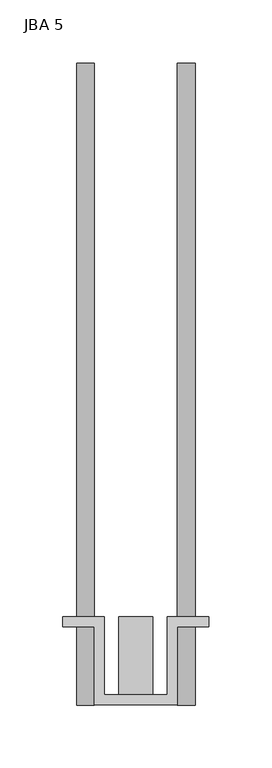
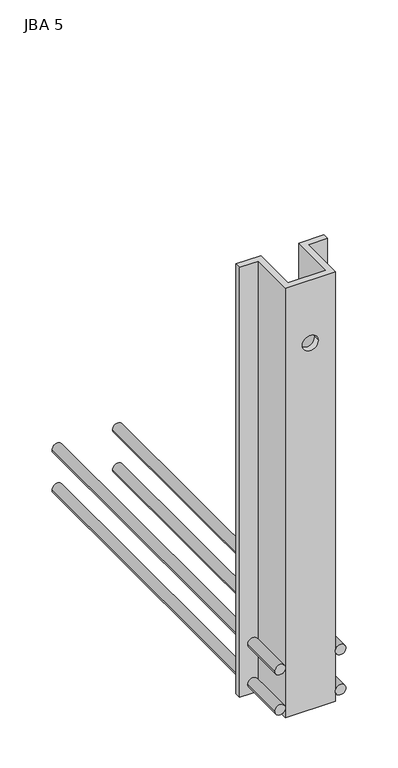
"""IFC4 building model written with IfcOpenShell, lengths in millimetres: fastener geometry, JBA JORDAHL® support corbels_1 : JBA 5."""

from ifc_helpers import new_model, si_unit, point, frame, frame_2d, origin, place, context, project, spatial, polyline, circle_curve, trimmed, segment, composite_curve, outline, extrude, source, transform, mapped, element, save
from ifc_brep_helpers import plane_surface, revolved_surface, advanced_brep


def jba_5_88301e45(model_context):
    return source(origin(), model_context, "Body", "SolidModel", [
        extrude(outline(composite_curve([segment(trimmed(circle_curve(frame_2d((-32.0, -40.0)), 7.0), [point((-32.0, -47.0))], [point((-32.0, -33.0))], False, "CARTESIAN"), True, "CONTINUOUS"), segment(trimmed(circle_curve(frame_2d((-32.0, -40.0)), 7.0), [point((-32.0, -33.0))], [point((-32.0, -47.0))], False, "CARTESIAN"), True, "CONTINUOUS")], self_intersect=False)), frame((0.0, 0.0, 0.0), z_axis=(0.0, 1.0, 0.0), x_axis=(0.0, 0.0, 1.0)), (0.0, 0.0, 1.0), 510.0),
        extrude(outline(composite_curve([segment(trimmed(circle_curve(frame_2d((-32.0, 40.0)), 7.0), [point((-32.0, 33.0))], [point((-32.0, 47.0))], False, "CARTESIAN"), True, "CONTINUOUS"), segment(trimmed(circle_curve(frame_2d((-32.0, 40.0)), 7.0), [point((-32.0, 47.0))], [point((-32.0, 33.0))], False, "CARTESIAN"), True, "CONTINUOUS")], self_intersect=False)), frame((0.0, 0.0, 0.0), z_axis=(0.0, 1.0, 0.0), x_axis=(0.0, 0.0, 1.0)), (0.0, 0.0, 1.0), 510.0),
        extrude(outline(composite_curve([segment(trimmed(circle_curve(frame_2d((-88.0, -40.0)), 7.0), [point((-88.0, -47.0))], [point((-88.0, -33.0))], False, "CARTESIAN"), True, "CONTINUOUS"), segment(trimmed(circle_curve(frame_2d((-88.0, -40.0)), 7.0), [point((-88.0, -33.0))], [point((-88.0, -47.0))], False, "CARTESIAN"), True, "CONTINUOUS")], self_intersect=False)), frame((0.0, 0.0, 0.0), z_axis=(0.0, 1.0, 0.0), x_axis=(0.0, 0.0, 1.0)), (0.0, 0.0, 1.0), 510.0),
        extrude(outline(composite_curve([segment(trimmed(circle_curve(frame_2d((-88.0, 40.0)), 7.0), [point((-88.0, 33.0))], [point((-88.0, 47.0))], False, "CARTESIAN"), True, "CONTINUOUS"), segment(trimmed(circle_curve(frame_2d((-88.0, 40.0)), 7.0), [point((-88.0, 47.0))], [point((-88.0, 33.0))], False, "CARTESIAN"), True, "CONTINUOUS")], self_intersect=False)), frame((0.0, 0.0, 0.0), z_axis=(0.0, 1.0, 0.0), x_axis=(0.0, 0.0, 1.0)), (0.0, 0.0, 1.0), 510.0),
        advanced_brep(
        [(-58.0, 62.0, 498.0), (-33.0, 62.0, 498.0), (-33.0, 0.0, 498.0), (33.0, 0.0, 498.0), (33.0, 62.0, 498.0), (58.0, 62.0, 498.0), (58.0, 70.0, 498.0), (25.0, 70.0, 498.0), (25.0, 8.0, 498.0), (-25.0, 8.0, 498.0), (-25.0, 70.0, 498.0), (-58.0, 70.0, 498.0), (-58.0, 62.0, -102.0), (-58.0, 70.0, -102.0), (-25.0, 70.0, -102.0), (-25.0, 8.0, -102.0), (25.0, 8.0, -102.0), (25.0, 70.0, -102.0), (58.0, 70.0, -102.0), (58.0, 62.0, -102.0), (33.0, 62.0, -102.0), (33.0, 0.0, -102.0), (-33.0, 0.0, -102.0), (-33.0, 62.0, -102.0), (10.5, 0.0, 410.0), (-10.5, 0.0, 410.0), (-10.5, 8.0, 410.0), (10.5, 8.0, 410.0)],
        [
            (0, 1),
            (1, 2),
            (2, 3),
            (3, 4),
            (4, 5),
            (5, 6),
            (6, 7),
            (7, 8),
            (8, 9),
            (9, 10),
            (10, 11),
            (11, 0),
            (12, 13),
            (13, 14),
            (14, 15),
            (15, 16),
            (16, 17),
            (17, 18),
            (18, 19),
            (19, 20),
            (20, 21),
            (21, 22),
            (22, 23),
            (23, 12),
            (0, 12),
            (23, 1),
            (22, 2),
            (21, 3),
            (24, 25, circle_curve(frame((0.0, 0.0, 410.0), z_axis=(0.0, 1.0, 0.0), x_axis=(1.0, 0.0, 0.0)), 10.5)),
            (25, 24, circle_curve(frame((0.0, 0.0, 410.0), z_axis=(0.0, 1.0, 0.0), x_axis=(1.0, 0.0, 0.0)), 10.5)),
            (20, 4),
            (19, 5),
            (18, 6),
            (17, 7),
            (16, 8),
            (15, 9),
            (26, 27, circle_curve(frame((0.0, 8.0, 410.0), z_axis=(0.0, -1.0, 0.0), x_axis=(1.0, 0.0, 0.0)), 10.5)),
            (27, 26, circle_curve(frame((0.0, 8.0, 410.0), z_axis=(0.0, -1.0, 0.0), x_axis=(1.0, 0.0, 0.0)), 10.5)),
            (14, 10),
            (13, 11),
            (24, 27),
            (26, 25),
        ],
        [
            plane_surface(frame((0.0, 70.0, 498.0), z_axis=(0.0, 0.0, 1.0), x_axis=(0.0, -1.0, 0.0))),
            plane_surface(frame((0.0, 70.0, -102.0), z_axis=(0.0, 0.0, -1.0), x_axis=(0.0, -1.0, 0.0))),
            plane_surface(frame((-58.0, 62.0, 498.0), z_axis=(0.0, -1.0, 0.0), x_axis=(0.0, 0.0, -1.0))),
            plane_surface(frame((-33.0, 62.0, 498.0), z_axis=(-1.0, 0.0, 0.0), x_axis=(0.0, 0.0, -1.0))),
            plane_surface(frame((-33.0, 0.0, 498.0), z_axis=(0.0, -1.0, 0.0), x_axis=(0.0, 0.0, -1.0))),
            plane_surface(frame((33.0, 0.0, 498.0), z_axis=(1.0, 0.0, 0.0), x_axis=(0.0, 0.0, -1.0))),
            plane_surface(frame((33.0, 62.0, 498.0), z_axis=(0.0, -1.0, 0.0), x_axis=(0.0, 0.0, -1.0))),
            plane_surface(frame((58.0, 62.0, 498.0), z_axis=(1.0, 0.0, 0.0), x_axis=(0.0, 0.0, -1.0))),
            plane_surface(frame((58.0, 70.0, 498.0), z_axis=(0.0, 1.0, 0.0), x_axis=(0.0, 0.0, -1.0))),
            plane_surface(frame((25.0, 70.0, 498.0), z_axis=(-1.0, 0.0, 0.0), x_axis=(0.0, 0.0, -1.0))),
            plane_surface(frame((25.0, 8.0, 498.0), z_axis=(0.0, 1.0, 0.0), x_axis=(0.0, 0.0, -1.0))),
            plane_surface(frame((-25.0, 8.0, 498.0), z_axis=(1.0, 0.0, 0.0), x_axis=(0.0, 0.0, -1.0))),
            plane_surface(frame((-25.0, 70.0, 498.0), z_axis=(0.0, 1.0, 0.0), x_axis=(0.0, 0.0, -1.0))),
            plane_surface(frame((-58.0, 70.0, 498.0), z_axis=(-1.0, 0.0, 0.0), x_axis=(0.0, 0.0, -1.0))),
            revolved_surface(polyline([(10.5, 0.0, 410.0), (10.5, 8.0, 410.0)]), (0.0, 8.0, 410.0), (0.0, -1.0, 0.0)),
        ],
        [
            (0, [[1, 2, 3, 4, 5, 6, 7, 8, 9, 10, 11, 12]]),
            (1, [[13, 14, 15, 16, 17, 18, 19, 20, 21, 22, 23, 24]]),
            (2, [[-1, 25, -24, 26]]),
            (3, [[-2, -26, -23, 27]]),
            (4, [[-3, -27, -22, 28], [29, 30]]),
            (5, [[-4, -28, -21, 31]]),
            (6, [[-5, -31, -20, 32]]),
            (7, [[-6, -32, -19, 33]]),
            (8, [[-7, -33, -18, 34]]),
            (9, [[-8, -34, -17, 35]]),
            (10, [[-9, -35, -16, 36], [37, 38]]),
            (11, [[-10, -36, -15, 39]]),
            (12, [[-11, -39, -14, 40]]),
            (13, [[-12, -40, -13, -25]]),
            (14, [[41, -37, 42, -29]]),
            (14, [[-41, -30, -42, -38]]),
        ],
    ),
        extrude(outline(composite_curve([segment(trimmed(circle_curve(frame_2d((50.0, 0.0)), 13.5), [point((50.0, -13.5))], [point((50.0, 13.5))], False, "CARTESIAN"), True, "CONTINUOUS"), segment(trimmed(circle_curve(frame_2d((50.0, 0.0)), 13.5), [point((50.0, 13.5))], [point((50.0, -13.5))], False, "CARTESIAN"), True, "CONTINUOUS")], self_intersect=False)), frame((0.0, 8.0, 0.0), z_axis=(0.0, 1.0, 0.0), x_axis=(0.0, 0.0, 1.0)), (0.0, 0.0, 1.0), 62.0),
    ])


if __name__ == "__main__":
    model = new_model("IFC4")
    model_context = context("Model", 3, world=origin())
    ifc_project = project(units=[si_unit("LENGTHUNIT", "METRE", prefix="MILLI")], contexts=[model_context])
    site = spatial("IfcSite", under=ifc_project)
    building = spatial("IfcBuilding", under=site)
    placement = place(None, origin())
    jba_5_shape = jba_5_88301e45(model_context)
    element("IfcFastener", 1, ObjectType="JBA JORDAHL® support corbels_1 : JBA 5", at=placement, inside=building, context=model_context, shape_type="MappedRepresentation", body=[
        mapped(jba_5_shape, transform((0.0, 0.0, 0.0), x_axis=(1.0, 0.0, 0.0), y_axis=(0.0, 1.0, 0.0), z_axis=(0.0, 0.0, 1.0))),
    ])
    save(model, "model.ifc")
